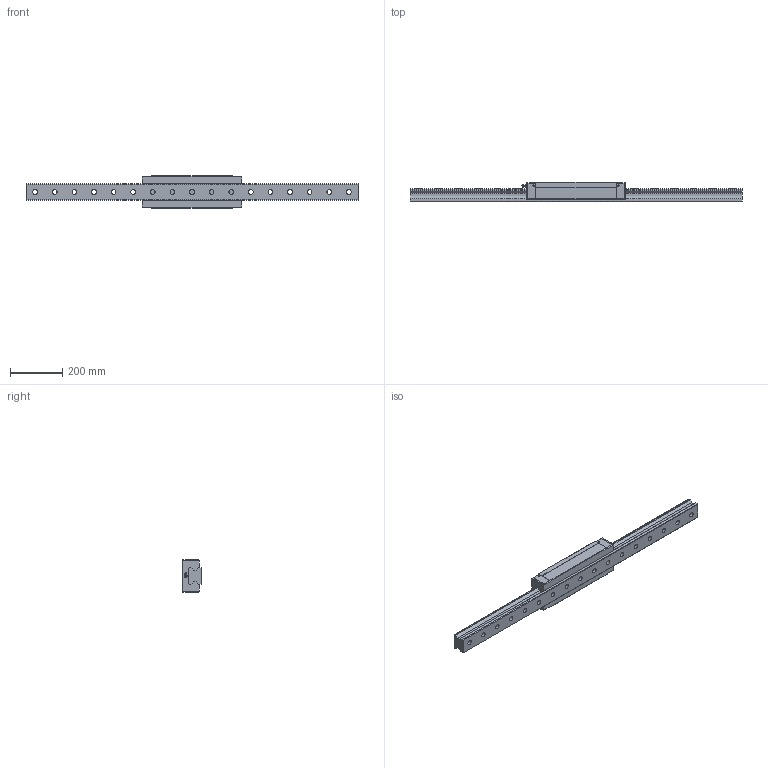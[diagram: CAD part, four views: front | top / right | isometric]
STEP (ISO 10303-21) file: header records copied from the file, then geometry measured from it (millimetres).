
FILE_DESCRIPTION(/* description */ ('STEP AP203'),/* implementation_level */ '2;1');
FILE_NAME(/* name */ 'SRN65SLR1SS-1270L_G35_0_B-PT18_445_0_0_0_1',/* time_stamp */ '2024-05-23T10:58:36+02:00',/* author */ ('License CC BY-ND 4.0'),/* organization */ ('CADENAS'),/* preprocessor_version */ 'ST-DEVELOPER v19.3',/* originating_system */ 'PARTsolutions',/* authorisation */ ' ');
FILE_SCHEMA (('CONFIG_CONTROL_DESIGN'));
Length unit declared in the file: millimetre
Products named in the file (4): SRN65SLR1SS-1270L_G35_0_B-PT18_445_0_0_0_1; SRN65SLR127035 Track; SRN65SLRSSB-PT1/81 Slide35-65; B-PT1/8-SRN_grease_nipple_joint
Assembly tree (3 placements, depth 2):
  SRN65SLR1SS-1270L_G35_0_B-PT18_445_0_0_0_1
    SRN65SLR127035 Track
    SRN65SLRSSB-PT1/81 Slide35-65
    B-PT1/8-SRN_grease_nipple_joint
Bounding box: 1270 x 75 x 126 mm (x, y, z)
Volume: 5372122.4 mm3; surface area: 552316.7 mm2
Topology: 3 solids, 3 shells, 219 faces, 541 edges, 351 vertices
Faces by surface type: plane 132, cylinder 52, cone 30, torus 3, sphere 2
Full cylindrical faces by diameter (mm): 5.2 x4, 9.6 x1, 13.835 x9, 18 x17, 26 x17
Entity records: 6146 total; most frequent: CARTESIAN_POINT 1135, DIRECTION 992, ORIENTED_EDGE 880, EDGE_CURVE 440, FACE_BOUND 370, EDGE_LOOP 359, AXIS2_PLACEMENT_3D 356, VERTEX_POINT 344
